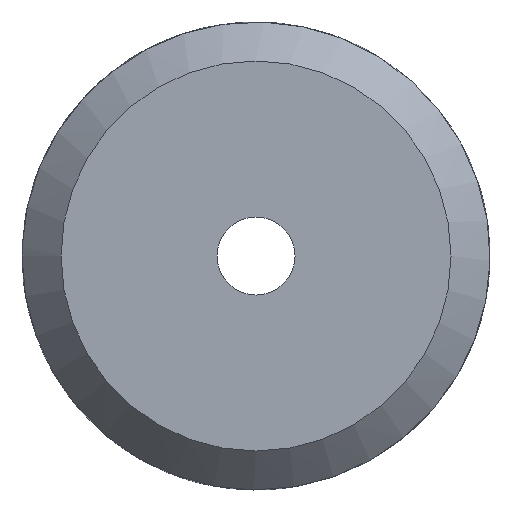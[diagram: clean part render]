
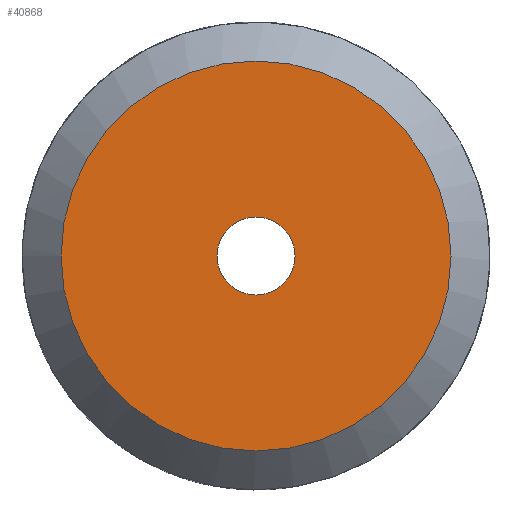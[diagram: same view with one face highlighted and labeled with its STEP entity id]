
A CAD part, left-side view. The second image highlights one B-rep face of the part: STEP entity #40868.
In plain terms, the highlighted planar face has unit normal (-1, 0, 0).
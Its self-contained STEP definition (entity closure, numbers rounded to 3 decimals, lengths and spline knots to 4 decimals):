
#11647=PLANE('',#40398);
#15033=ORIENTED_EDGE('',*,*,#16188,.F.);
#15034=ORIENTED_EDGE('',*,*,#17348,.F.);
#15036=CIRCLE('',#39722,2.5);
#15375=CIRCLE('',#40397,0.5);
#15377=VERTEX_POINT('',#19436);
#16186=VERTEX_POINT('',#39715);
#16188=EDGE_CURVE('',#15377,#15377,#15036,.T.);
#17348=EDGE_CURVE('',#16186,#16186,#15375,.T.);
#17708=EDGE_LOOP('',(#15033));
#17709=EDGE_LOOP('',(#15034));
#18069=FACE_BOUND('',#17708,.T.);
#18070=FACE_BOUND('',#17709,.T.);
#18075=DIRECTION('',(1.,0.,0.));
#18076=DIRECTION('',(0.,0.,-2.5));
#19425=DIRECTION('',(-1.,0.,0.));
#19426=DIRECTION('',(0.,0.,0.5));
#19427=DIRECTION('',(-1.,0.,0.));
#19428=DIRECTION('',(0.,1.,0.));
#19436=CARTESIAN_POINT('',(-214.3329,-39.2791,-2.5));
#19437=CARTESIAN_POINT('',(-214.3329,-39.2791,0.));
#39715=CARTESIAN_POINT('',(-214.3329,-39.2791,0.5));
#39716=CARTESIAN_POINT('',(-214.3329,-39.2791,0.));
#39717=CARTESIAN_POINT('',(-214.3329,-39.2791,-2.5));
#39722=AXIS2_PLACEMENT_3D('',#19437,#18075,#18076);
#40397=AXIS2_PLACEMENT_3D('',#39716,#19425,#19426);
#40398=AXIS2_PLACEMENT_3D('',#39717,#19427,#19428);
#40868=ADVANCED_FACE('',(#18069,#18070),#11647,.T.);
